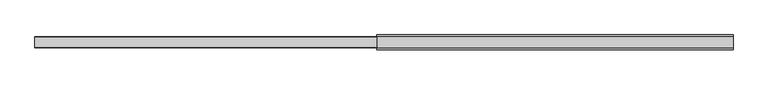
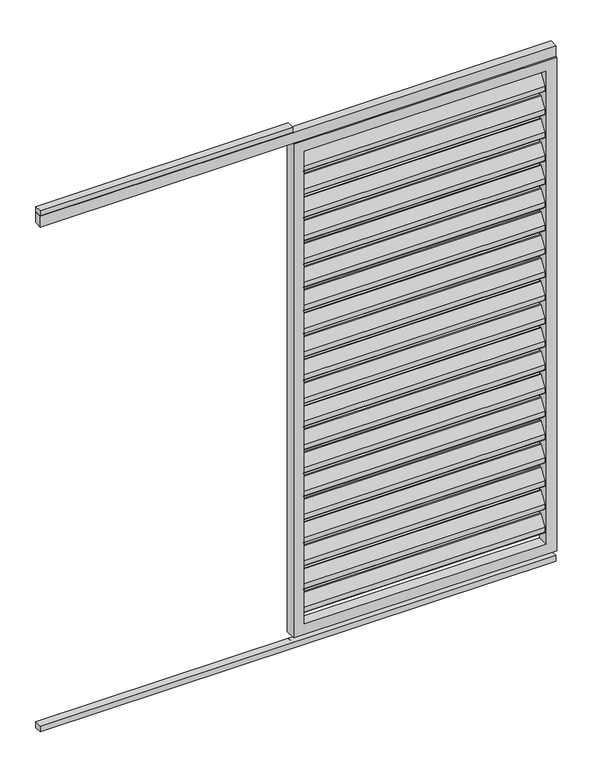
"""IFC4 building model written with IfcOpenShell, lengths in millimetres: proxy geometry, Renson_Algarve_Loggia_Paro_Aluminium : Renson_Algarve_Loggia_Paro_Aluminium."""

from ifc_helpers import new_model, si_unit, point, frame, frame_2d, origin, origin_with_axes, place, context, project, spatial, polyline, circle_curve, trimmed, segment, composite_curve, outline, extrude, source, transform, mapped, element, save


def generic_models_a2ce570f(model_context):
    return source(origin(), model_context, "Body", "SweptSolid", [
        extrude(outline(composite_curve([segment(trimmed(circle_curve(frame_2d((12.6675921, 1892.6587719)), 3.0), [point((10.1515804, 1894.292689))], [point((15.6675921, 1892.6587719))], False, "CARTESIAN"), True, "CONTINUOUS"), segment(polyline([(15.6675921, 1892.6587719), (15.6675921, 1874.2979873)]), True, "CONTINUOUS"), segment(trimmed(circle_curve(frame_2d((12.6675921, 1874.2979873)), 3.0), [point((15.6675921, 1874.2979873))], [point((15.1836038, 1872.6640702))], False, "CARTESIAN"), True, "CONTINUOUS"), segment(polyline([(15.1836038, 1872.6640702), (-8.8163962, 1835.707311)]), True, "CONTINUOUS"), segment(trimmed(circle_curve(frame_2d((-11.3324079, 1837.3412281)), 3.0), [point((-8.8163962, 1835.707311))], [point((-14.3324079, 1837.3412281))], False, "CARTESIAN"), True, "CONTINUOUS"), segment(polyline([(-14.3324079, 1837.3412281), (-14.3324079, 1856.5906532), (10.1515804, 1894.292689)]), True, "CONTINUOUS")], self_intersect=False)), frame((-442.5, 0.0, 0.0), z_axis=(1.0, 0.0, 0.0), x_axis=(0.0, 1.0, 0.0)), (0.0, 0.0, 1.0), 885.0),
        extrude(outline(composite_curve([segment(trimmed(circle_curve(frame_2d((12.6675921, 1802.6587719)), 3.0), [point((10.1515804, 1804.292689))], [point((15.6675921, 1802.6587719))], False, "CARTESIAN"), True, "CONTINUOUS"), segment(polyline([(15.6675921, 1802.6587719), (15.6675921, 1784.2979873)]), True, "CONTINUOUS"), segment(trimmed(circle_curve(frame_2d((12.6675921, 1784.2979873)), 3.0), [point((15.6675921, 1784.2979873))], [point((15.1836038, 1782.6640702))], False, "CARTESIAN"), True, "CONTINUOUS"), segment(polyline([(15.1836038, 1782.6640702), (-8.8163962, 1745.707311)]), True, "CONTINUOUS"), segment(trimmed(circle_curve(frame_2d((-11.3324079, 1747.3412281)), 3.0), [point((-8.8163962, 1745.707311))], [point((-14.3324079, 1747.3412281))], False, "CARTESIAN"), True, "CONTINUOUS"), segment(polyline([(-14.3324079, 1747.3412281), (-14.3324079, 1766.5906532), (10.1515804, 1804.292689)]), True, "CONTINUOUS")], self_intersect=False)), frame((-442.5, 0.0, 0.0), z_axis=(1.0, 0.0, 0.0), x_axis=(0.0, 1.0, 0.0)), (0.0, 0.0, 1.0), 885.0),
        extrude(outline(composite_curve([segment(trimmed(circle_curve(frame_2d((12.6675921, 1712.6587719)), 3.0), [point((10.1515804, 1714.292689))], [point((15.6675921, 1712.6587719))], False, "CARTESIAN"), True, "CONTINUOUS"), segment(polyline([(15.6675921, 1712.6587719), (15.6675921, 1694.2979873)]), True, "CONTINUOUS"), segment(trimmed(circle_curve(frame_2d((12.6675921, 1694.2979873)), 3.0), [point((15.6675921, 1694.2979873))], [point((15.1836038, 1692.6640702))], False, "CARTESIAN"), True, "CONTINUOUS"), segment(polyline([(15.1836038, 1692.6640702), (-8.8163962, 1655.707311)]), True, "CONTINUOUS"), segment(trimmed(circle_curve(frame_2d((-11.3324079, 1657.3412281)), 3.0), [point((-8.8163962, 1655.707311))], [point((-14.3324079, 1657.3412281))], False, "CARTESIAN"), True, "CONTINUOUS"), segment(polyline([(-14.3324079, 1657.3412281), (-14.3324079, 1676.5906532), (10.1515804, 1714.292689)]), True, "CONTINUOUS")], self_intersect=False)), frame((-442.5, 0.0, 0.0), z_axis=(1.0, 0.0, 0.0), x_axis=(0.0, 1.0, 0.0)), (0.0, 0.0, 1.0), 885.0),
        extrude(outline(composite_curve([segment(trimmed(circle_curve(frame_2d((12.6675921, 1622.6587719)), 3.0), [point((10.1515804, 1624.292689))], [point((15.6675921, 1622.6587719))], False, "CARTESIAN"), True, "CONTINUOUS"), segment(polyline([(15.6675921, 1622.6587719), (15.6675921, 1604.2979873)]), True, "CONTINUOUS"), segment(trimmed(circle_curve(frame_2d((12.6675921, 1604.2979873)), 3.0), [point((15.6675921, 1604.2979873))], [point((15.1836038, 1602.6640702))], False, "CARTESIAN"), True, "CONTINUOUS"), segment(polyline([(15.1836038, 1602.6640702), (-8.8163962, 1565.707311)]), True, "CONTINUOUS"), segment(trimmed(circle_curve(frame_2d((-11.3324079, 1567.3412281)), 3.0), [point((-8.8163962, 1565.707311))], [point((-14.3324079, 1567.3412281))], False, "CARTESIAN"), True, "CONTINUOUS"), segment(polyline([(-14.3324079, 1567.3412281), (-14.3324079, 1586.5906532), (10.1515804, 1624.292689)]), True, "CONTINUOUS")], self_intersect=False)), frame((-442.5, 0.0, 0.0), z_axis=(1.0, 0.0, 0.0), x_axis=(0.0, 1.0, 0.0)), (0.0, 0.0, 1.0), 885.0),
        extrude(outline(composite_curve([segment(trimmed(circle_curve(frame_2d((12.6675921, 1532.6587719)), 3.0), [point((10.1515804, 1534.292689))], [point((15.6675921, 1532.6587719))], False, "CARTESIAN"), True, "CONTINUOUS"), segment(polyline([(15.6675921, 1532.6587719), (15.6675921, 1514.2979873)]), True, "CONTINUOUS"), segment(trimmed(circle_curve(frame_2d((12.6675921, 1514.2979873)), 3.0), [point((15.6675921, 1514.2979873))], [point((15.1836038, 1512.6640702))], False, "CARTESIAN"), True, "CONTINUOUS"), segment(polyline([(15.1836038, 1512.6640702), (-8.8163962, 1475.707311)]), True, "CONTINUOUS"), segment(trimmed(circle_curve(frame_2d((-11.3324079, 1477.3412281)), 3.0), [point((-8.8163962, 1475.707311))], [point((-14.3324079, 1477.3412281))], False, "CARTESIAN"), True, "CONTINUOUS"), segment(polyline([(-14.3324079, 1477.3412281), (-14.3324079, 1496.5906532), (10.1515804, 1534.292689)]), True, "CONTINUOUS")], self_intersect=False)), frame((-442.5, 0.0, 0.0), z_axis=(1.0, 0.0, 0.0), x_axis=(0.0, 1.0, 0.0)), (0.0, 0.0, 1.0), 885.0),
        extrude(outline(composite_curve([segment(trimmed(circle_curve(frame_2d((12.6675921, 1442.6587719)), 3.0), [point((10.1515804, 1444.292689))], [point((15.6675921, 1442.6587719))], False, "CARTESIAN"), True, "CONTINUOUS"), segment(polyline([(15.6675921, 1442.6587719), (15.6675921, 1424.2979873)]), True, "CONTINUOUS"), segment(trimmed(circle_curve(frame_2d((12.6675921, 1424.2979873)), 3.0), [point((15.6675921, 1424.2979873))], [point((15.1836038, 1422.6640702))], False, "CARTESIAN"), True, "CONTINUOUS"), segment(polyline([(15.1836038, 1422.6640702), (-8.8163962, 1385.707311)]), True, "CONTINUOUS"), segment(trimmed(circle_curve(frame_2d((-11.3324079, 1387.3412281)), 3.0), [point((-8.8163962, 1385.707311))], [point((-14.3324079, 1387.3412281))], False, "CARTESIAN"), True, "CONTINUOUS"), segment(polyline([(-14.3324079, 1387.3412281), (-14.3324079, 1406.5906532), (10.1515804, 1444.292689)]), True, "CONTINUOUS")], self_intersect=False)), frame((-442.5, 0.0, 0.0), z_axis=(1.0, 0.0, 0.0), x_axis=(0.0, 1.0, 0.0)), (0.0, 0.0, 1.0), 885.0),
        extrude(outline(composite_curve([segment(trimmed(circle_curve(frame_2d((12.6675921, 1352.6587719)), 3.0), [point((10.1515804, 1354.292689))], [point((15.6675921, 1352.6587719))], False, "CARTESIAN"), True, "CONTINUOUS"), segment(polyline([(15.6675921, 1352.6587719), (15.6675921, 1334.2979873)]), True, "CONTINUOUS"), segment(trimmed(circle_curve(frame_2d((12.6675921, 1334.2979873)), 3.0), [point((15.6675921, 1334.2979873))], [point((15.1836038, 1332.6640702))], False, "CARTESIAN"), True, "CONTINUOUS"), segment(polyline([(15.1836038, 1332.6640702), (-8.8163962, 1295.707311)]), True, "CONTINUOUS"), segment(trimmed(circle_curve(frame_2d((-11.3324079, 1297.3412281)), 3.0), [point((-8.8163962, 1295.707311))], [point((-14.3324079, 1297.3412281))], False, "CARTESIAN"), True, "CONTINUOUS"), segment(polyline([(-14.3324079, 1297.3412281), (-14.3324079, 1316.5906532), (10.1515804, 1354.292689)]), True, "CONTINUOUS")], self_intersect=False)), frame((-442.5, 0.0, 0.0), z_axis=(1.0, 0.0, 0.0), x_axis=(0.0, 1.0, 0.0)), (0.0, 0.0, 1.0), 885.0),
        extrude(outline(composite_curve([segment(trimmed(circle_curve(frame_2d((12.6675921, 1262.6587719)), 3.0), [point((10.1515804, 1264.292689))], [point((15.6675921, 1262.6587719))], False, "CARTESIAN"), True, "CONTINUOUS"), segment(polyline([(15.6675921, 1262.6587719), (15.6675921, 1244.2979873)]), True, "CONTINUOUS"), segment(trimmed(circle_curve(frame_2d((12.6675921, 1244.2979873)), 3.0), [point((15.6675921, 1244.2979873))], [point((15.1836038, 1242.6640702))], False, "CARTESIAN"), True, "CONTINUOUS"), segment(polyline([(15.1836038, 1242.6640702), (-8.8163962, 1205.707311)]), True, "CONTINUOUS"), segment(trimmed(circle_curve(frame_2d((-11.3324079, 1207.3412281)), 3.0), [point((-8.8163962, 1205.707311))], [point((-14.3324079, 1207.3412281))], False, "CARTESIAN"), True, "CONTINUOUS"), segment(polyline([(-14.3324079, 1207.3412281), (-14.3324079, 1226.5906532), (10.1515804, 1264.292689)]), True, "CONTINUOUS")], self_intersect=False)), frame((-442.5, 0.0, 0.0), z_axis=(1.0, 0.0, 0.0), x_axis=(0.0, 1.0, 0.0)), (0.0, 0.0, 1.0), 885.0),
        extrude(outline(composite_curve([segment(trimmed(circle_curve(frame_2d((12.6675921, 1172.6587719)), 3.0), [point((10.1515804, 1174.292689))], [point((15.6675921, 1172.6587719))], False, "CARTESIAN"), True, "CONTINUOUS"), segment(polyline([(15.6675921, 1172.6587719), (15.6675921, 1154.2979873)]), True, "CONTINUOUS"), segment(trimmed(circle_curve(frame_2d((12.6675921, 1154.2979873)), 3.0), [point((15.6675921, 1154.2979873))], [point((15.1836038, 1152.6640702))], False, "CARTESIAN"), True, "CONTINUOUS"), segment(polyline([(15.1836038, 1152.6640702), (-8.8163962, 1115.707311)]), True, "CONTINUOUS"), segment(trimmed(circle_curve(frame_2d((-11.3324079, 1117.3412281)), 3.0), [point((-8.8163962, 1115.707311))], [point((-14.3324079, 1117.3412281))], False, "CARTESIAN"), True, "CONTINUOUS"), segment(polyline([(-14.3324079, 1117.3412281), (-14.3324079, 1136.5906532), (10.1515804, 1174.292689)]), True, "CONTINUOUS")], self_intersect=False)), frame((-442.5, 0.0, 0.0), z_axis=(1.0, 0.0, 0.0), x_axis=(0.0, 1.0, 0.0)), (0.0, 0.0, 1.0), 885.0),
        extrude(outline(composite_curve([segment(trimmed(circle_curve(frame_2d((12.6675921, 1082.6587719)), 3.0), [point((10.1515804, 1084.292689))], [point((15.6675921, 1082.6587719))], False, "CARTESIAN"), True, "CONTINUOUS"), segment(polyline([(15.6675921, 1082.6587719), (15.6675921, 1064.2979873)]), True, "CONTINUOUS"), segment(trimmed(circle_curve(frame_2d((12.6675921, 1064.2979873)), 3.0), [point((15.6675921, 1064.2979873))], [point((15.1836038, 1062.6640702))], False, "CARTESIAN"), True, "CONTINUOUS"), segment(polyline([(15.1836038, 1062.6640702), (-8.8163962, 1025.707311)]), True, "CONTINUOUS"), segment(trimmed(circle_curve(frame_2d((-11.3324079, 1027.3412281)), 3.0), [point((-8.8163962, 1025.707311))], [point((-14.3324079, 1027.3412281))], False, "CARTESIAN"), True, "CONTINUOUS"), segment(polyline([(-14.3324079, 1027.3412281), (-14.3324079, 1046.5906532), (10.1515804, 1084.292689)]), True, "CONTINUOUS")], self_intersect=False)), frame((-442.5, 0.0, 0.0), z_axis=(1.0, 0.0, 0.0), x_axis=(0.0, 1.0, 0.0)), (0.0, 0.0, 1.0), 885.0),
        extrude(outline(composite_curve([segment(trimmed(circle_curve(frame_2d((12.6675921, 992.6587719)), 3.0), [point((10.1515804, 994.292689))], [point((15.6675921, 992.6587719))], False, "CARTESIAN"), True, "CONTINUOUS"), segment(polyline([(15.6675921, 992.6587719), (15.6675921, 974.2979873)]), True, "CONTINUOUS"), segment(trimmed(circle_curve(frame_2d((12.6675921, 974.2979873)), 3.0), [point((15.6675921, 974.2979873))], [point((15.1836038, 972.6640702))], False, "CARTESIAN"), True, "CONTINUOUS"), segment(polyline([(15.1836038, 972.6640702), (-8.8163962, 935.707311)]), True, "CONTINUOUS"), segment(trimmed(circle_curve(frame_2d((-11.3324079, 937.3412281)), 3.0), [point((-8.8163962, 935.707311))], [point((-14.3324079, 937.3412281))], False, "CARTESIAN"), True, "CONTINUOUS"), segment(polyline([(-14.3324079, 937.3412281), (-14.3324079, 956.5906532), (10.1515804, 994.292689)]), True, "CONTINUOUS")], self_intersect=False)), frame((-442.5, 0.0, 0.0), z_axis=(1.0, 0.0, 0.0), x_axis=(0.0, 1.0, 0.0)), (0.0, 0.0, 1.0), 885.0),
        extrude(outline(composite_curve([segment(trimmed(circle_curve(frame_2d((12.6675921, 902.6587719)), 3.0), [point((10.1515804, 904.292689))], [point((15.6675921, 902.6587719))], False, "CARTESIAN"), True, "CONTINUOUS"), segment(polyline([(15.6675921, 902.6587719), (15.6675921, 884.2979873)]), True, "CONTINUOUS"), segment(trimmed(circle_curve(frame_2d((12.6675921, 884.2979873)), 3.0), [point((15.6675921, 884.2979873))], [point((15.1836038, 882.6640702))], False, "CARTESIAN"), True, "CONTINUOUS"), segment(polyline([(15.1836038, 882.6640702), (-8.8163962, 845.707311)]), True, "CONTINUOUS"), segment(trimmed(circle_curve(frame_2d((-11.3324079, 847.3412281)), 3.0), [point((-8.8163962, 845.707311))], [point((-14.3324079, 847.3412281))], False, "CARTESIAN"), True, "CONTINUOUS"), segment(polyline([(-14.3324079, 847.3412281), (-14.3324079, 866.5906532), (10.1515804, 904.292689)]), True, "CONTINUOUS")], self_intersect=False)), frame((-442.5, 0.0, 0.0), z_axis=(1.0, 0.0, 0.0), x_axis=(0.0, 1.0, 0.0)), (0.0, 0.0, 1.0), 885.0),
        extrude(outline(composite_curve([segment(trimmed(circle_curve(frame_2d((12.6675921, 812.6587719)), 3.0), [point((10.1515804, 814.292689))], [point((15.6675921, 812.6587719))], False, "CARTESIAN"), True, "CONTINUOUS"), segment(polyline([(15.6675921, 812.6587719), (15.6675921, 794.2979873)]), True, "CONTINUOUS"), segment(trimmed(circle_curve(frame_2d((12.6675921, 794.2979873)), 3.0), [point((15.6675921, 794.2979873))], [point((15.1836038, 792.6640702))], False, "CARTESIAN"), True, "CONTINUOUS"), segment(polyline([(15.1836038, 792.6640702), (-8.8163962, 755.707311)]), True, "CONTINUOUS"), segment(trimmed(circle_curve(frame_2d((-11.3324079, 757.3412281)), 3.0), [point((-8.8163962, 755.707311))], [point((-14.3324079, 757.3412281))], False, "CARTESIAN"), True, "CONTINUOUS"), segment(polyline([(-14.3324079, 757.3412281), (-14.3324079, 776.5906532), (10.1515804, 814.292689)]), True, "CONTINUOUS")], self_intersect=False)), frame((-442.5, 0.0, 0.0), z_axis=(1.0, 0.0, 0.0), x_axis=(0.0, 1.0, 0.0)), (0.0, 0.0, 1.0), 885.0),
        extrude(outline(composite_curve([segment(trimmed(circle_curve(frame_2d((12.6675921, 722.6587719)), 3.0), [point((10.1515804, 724.292689))], [point((15.6675921, 722.6587719))], False, "CARTESIAN"), True, "CONTINUOUS"), segment(polyline([(15.6675921, 722.6587719), (15.6675921, 704.2979873)]), True, "CONTINUOUS"), segment(trimmed(circle_curve(frame_2d((12.6675921, 704.2979873)), 3.0), [point((15.6675921, 704.2979873))], [point((15.1836038, 702.6640702))], False, "CARTESIAN"), True, "CONTINUOUS"), segment(polyline([(15.1836038, 702.6640702), (-8.8163962, 665.707311)]), True, "CONTINUOUS"), segment(trimmed(circle_curve(frame_2d((-11.3324079, 667.3412281)), 3.0), [point((-8.8163962, 665.707311))], [point((-14.3324079, 667.3412281))], False, "CARTESIAN"), True, "CONTINUOUS"), segment(polyline([(-14.3324079, 667.3412281), (-14.3324079, 686.5906532), (10.1515804, 724.292689)]), True, "CONTINUOUS")], self_intersect=False)), frame((-442.5, 0.0, 0.0), z_axis=(1.0, 0.0, 0.0), x_axis=(0.0, 1.0, 0.0)), (0.0, 0.0, 1.0), 885.0),
        extrude(outline(composite_curve([segment(trimmed(circle_curve(frame_2d((12.6675921, 632.6587719)), 3.0), [point((10.1515804, 634.292689))], [point((15.6675921, 632.6587719))], False, "CARTESIAN"), True, "CONTINUOUS"), segment(polyline([(15.6675921, 632.6587719), (15.6675921, 614.2979873)]), True, "CONTINUOUS"), segment(trimmed(circle_curve(frame_2d((12.6675921, 614.2979873)), 3.0), [point((15.6675921, 614.2979873))], [point((15.1836038, 612.6640702))], False, "CARTESIAN"), True, "CONTINUOUS"), segment(polyline([(15.1836038, 612.6640702), (-8.8163962, 575.707311)]), True, "CONTINUOUS"), segment(trimmed(circle_curve(frame_2d((-11.3324079, 577.3412281)), 3.0), [point((-8.8163962, 575.707311))], [point((-14.3324079, 577.3412281))], False, "CARTESIAN"), True, "CONTINUOUS"), segment(polyline([(-14.3324079, 577.3412281), (-14.3324079, 596.5906532), (10.1515804, 634.292689)]), True, "CONTINUOUS")], self_intersect=False)), frame((-442.5, 0.0, 0.0), z_axis=(1.0, 0.0, 0.0), x_axis=(0.0, 1.0, 0.0)), (0.0, 0.0, 1.0), 885.0),
        extrude(outline(composite_curve([segment(trimmed(circle_curve(frame_2d((12.6675921, 542.6587719)), 3.0), [point((10.1515804, 544.292689))], [point((15.6675921, 542.6587719))], False, "CARTESIAN"), True, "CONTINUOUS"), segment(polyline([(15.6675921, 542.6587719), (15.6675921, 524.2979873)]), True, "CONTINUOUS"), segment(trimmed(circle_curve(frame_2d((12.6675921, 524.2979873)), 3.0), [point((15.6675921, 524.2979873))], [point((15.1836038, 522.6640702))], False, "CARTESIAN"), True, "CONTINUOUS"), segment(polyline([(15.1836038, 522.6640702), (-8.8163962, 485.707311)]), True, "CONTINUOUS"), segment(trimmed(circle_curve(frame_2d((-11.3324079, 487.3412281)), 3.0), [point((-8.8163962, 485.707311))], [point((-14.3324079, 487.3412281))], False, "CARTESIAN"), True, "CONTINUOUS"), segment(polyline([(-14.3324079, 487.3412281), (-14.3324079, 506.5906532), (10.1515804, 544.292689)]), True, "CONTINUOUS")], self_intersect=False)), frame((-442.5, 0.0, 0.0), z_axis=(1.0, 0.0, 0.0), x_axis=(0.0, 1.0, 0.0)), (0.0, 0.0, 1.0), 885.0),
        extrude(outline(composite_curve([segment(trimmed(circle_curve(frame_2d((12.6675921, 452.6587719)), 3.0), [point((10.1515804, 454.292689))], [point((15.6675921, 452.6587719))], False, "CARTESIAN"), True, "CONTINUOUS"), segment(polyline([(15.6675921, 452.6587719), (15.6675921, 434.2979873)]), True, "CONTINUOUS"), segment(trimmed(circle_curve(frame_2d((12.6675921, 434.2979873)), 3.0), [point((15.6675921, 434.2979873))], [point((15.1836038, 432.6640702))], False, "CARTESIAN"), True, "CONTINUOUS"), segment(polyline([(15.1836038, 432.6640702), (-8.8163962, 395.707311)]), True, "CONTINUOUS"), segment(trimmed(circle_curve(frame_2d((-11.3324079, 397.3412281)), 3.0), [point((-8.8163962, 395.707311))], [point((-14.3324079, 397.3412281))], False, "CARTESIAN"), True, "CONTINUOUS"), segment(polyline([(-14.3324079, 397.3412281), (-14.3324079, 416.5906532), (10.1515804, 454.292689)]), True, "CONTINUOUS")], self_intersect=False)), frame((-442.5, 0.0, 0.0), z_axis=(1.0, 0.0, 0.0), x_axis=(0.0, 1.0, 0.0)), (0.0, 0.0, 1.0), 885.0),
        extrude(outline(composite_curve([segment(trimmed(circle_curve(frame_2d((12.6675921, 362.6587719)), 3.0), [point((10.1515804, 364.292689))], [point((15.6675921, 362.6587719))], False, "CARTESIAN"), True, "CONTINUOUS"), segment(polyline([(15.6675921, 362.6587719), (15.6675921, 344.2979873)]), True, "CONTINUOUS"), segment(trimmed(circle_curve(frame_2d((12.6675921, 344.2979873)), 3.0), [point((15.6675921, 344.2979873))], [point((15.1836038, 342.6640702))], False, "CARTESIAN"), True, "CONTINUOUS"), segment(polyline([(15.1836038, 342.6640702), (-8.8163962, 305.707311)]), True, "CONTINUOUS"), segment(trimmed(circle_curve(frame_2d((-11.3324079, 307.3412281)), 3.0), [point((-8.8163962, 305.707311))], [point((-14.3324079, 307.3412281))], False, "CARTESIAN"), True, "CONTINUOUS"), segment(polyline([(-14.3324079, 307.3412281), (-14.3324079, 326.5906532), (10.1515804, 364.292689)]), True, "CONTINUOUS")], self_intersect=False)), frame((-442.5, 0.0, 0.0), z_axis=(1.0, 0.0, 0.0), x_axis=(0.0, 1.0, 0.0)), (0.0, 0.0, 1.0), 885.0),
        extrude(outline(composite_curve([segment(trimmed(circle_curve(frame_2d((12.6675921, 272.6587719)), 3.0), [point((10.1515804, 274.292689))], [point((15.6675921, 272.6587719))], False, "CARTESIAN"), True, "CONTINUOUS"), segment(polyline([(15.6675921, 272.6587719), (15.6675921, 254.2979873)]), True, "CONTINUOUS"), segment(trimmed(circle_curve(frame_2d((12.6675921, 254.2979873)), 3.0), [point((15.6675921, 254.2979873))], [point((15.1836038, 252.6640702))], False, "CARTESIAN"), True, "CONTINUOUS"), segment(polyline([(15.1836038, 252.6640702), (-8.8163962, 215.707311)]), True, "CONTINUOUS"), segment(trimmed(circle_curve(frame_2d((-11.3324079, 217.3412281)), 3.0), [point((-8.8163962, 215.707311))], [point((-14.3324079, 217.3412281))], False, "CARTESIAN"), True, "CONTINUOUS"), segment(polyline([(-14.3324079, 217.3412281), (-14.3324079, 236.5906532), (10.1515804, 274.292689)]), True, "CONTINUOUS")], self_intersect=False)), frame((-442.5, 0.0, 0.0), z_axis=(1.0, 0.0, 0.0), x_axis=(0.0, 1.0, 0.0)), (0.0, 0.0, 1.0), 885.0),
        extrude(outline(composite_curve([segment(trimmed(circle_curve(frame_2d((12.6675921, 182.6587719)), 3.0), [point((10.1515804, 184.292689))], [point((15.6675921, 182.6587719))], False, "CARTESIAN"), True, "CONTINUOUS"), segment(polyline([(15.6675921, 182.6587719), (15.6675921, 164.2979873)]), True, "CONTINUOUS"), segment(trimmed(circle_curve(frame_2d((12.6675921, 164.2979873)), 3.0), [point((15.6675921, 164.2979873))], [point((15.1836038, 162.6640702))], False, "CARTESIAN"), True, "CONTINUOUS"), segment(polyline([(15.1836038, 162.6640702), (-8.8163962, 125.707311)]), True, "CONTINUOUS"), segment(trimmed(circle_curve(frame_2d((-11.3324079, 127.3412281)), 3.0), [point((-8.8163962, 125.707311))], [point((-14.3324079, 127.3412281))], False, "CARTESIAN"), True, "CONTINUOUS"), segment(polyline([(-14.3324079, 127.3412281), (-14.3324079, 146.5906532), (10.1515804, 184.292689)]), True, "CONTINUOUS")], self_intersect=False)), frame((-442.5, 0.0, 0.0), z_axis=(1.0, 0.0, 0.0), x_axis=(0.0, 1.0, 0.0)), (0.0, 0.0, 1.0), 885.0),
        extrude(outline(polyline([(-481.5, -13.0), (-1407.5, -13.0), (-1407.5, 14.0), (-481.5, 14.0), (-481.5, -13.0)])), frame((0.0, 0.0, 2000.0), z_axis=(0.0, 0.0, 1.0), x_axis=(1.0, 0.0, 0.0)), (0.0, 0.0, 1.0), 20.0),
        extrude(outline(polyline([(482.5, 15.0), (482.5, -15.0), (-1407.5, -15.0), (-1407.5, 15.0), (482.5, 15.0)])), frame((0.0, 0.0, 1957.7138321), z_axis=(0.0, 0.0, 1.0), x_axis=(1.0, 0.0, 0.0)), (0.0, 0.0, 1.0), 42.2861679),
        extrude(outline(polyline([(-481.5, 15.0), (-481.5, -15.0), (-482.5, -15.0), (-482.5, 15.0), (-481.5, 15.0)])), frame((0.0, 0.0, 1957.7138321), z_axis=(0.0, 0.0, 1.0), x_axis=(1.0, 0.0, 0.0)), (0.0, 0.0, 1.0), 42.2861679),
        extrude(outline(polyline([(482.5, -13.0), (-1407.5, -13.0), (-1407.5, 14.0), (482.5, 14.0), (482.5, -13.0)])), origin_with_axes(), (0.0, 0.0, 1.0), 23.0),
        extrude(outline(polyline([(-481.5, -13.0), (-482.5, -13.0), (-482.5, 14.0), (-481.5, 14.0), (-481.5, -13.0)])), origin_with_axes(), (0.0, 0.0, 1.0), 23.0),
        extrude(outline(polyline([(1957.7138321, -482.5), (45.0, -482.5), (45.0, 482.5), (1957.7138321, 482.5), (1957.7138321, -482.5)]), holes=[polyline([(1917.7138321, 442.5), (85.0, 442.5), (85.0, -442.5), (1917.7138321, -442.5), (1917.7138321, 442.5)])]), frame((0.0, -20.0, 0.0), z_axis=(0.0, 1.0, 0.0), x_axis=(0.0, 0.0, 1.0)), (0.0, 0.0, 1.0), 40.0),
    ])


if __name__ == "__main__":
    model = new_model("IFC4")
    model_context = context("Model", 3, world=origin())
    ifc_project = project(units=[si_unit("LENGTHUNIT", "METRE", prefix="MILLI")], contexts=[model_context])
    site = spatial("IfcSite", under=ifc_project)
    building = spatial("IfcBuilding", under=site)
    placement = place(None, origin())
    generic_models_shape = generic_models_a2ce570f(model_context)
    element("IfcBuildingElementProxy", 1, Name="Renson_Algarve_Loggia_Paro_Aluminium : Renson_Algarve_Loggia_Paro_Aluminium", ObjectType="Renson_Algarve_Loggia_Paro_Aluminium : Renson_Algarve_Loggia_Paro_Aluminium", at=placement, inside=building, context=model_context, shape_type="MappedRepresentation", body=[
        mapped(generic_models_shape, transform((0.0, 0.0, 0.0), x_axis=(1.0, 0.0, 0.0), y_axis=(0.0, 1.0, 0.0), z_axis=(0.0, 0.0, 1.0))),
    ])
    save(model, "model.ifc")
